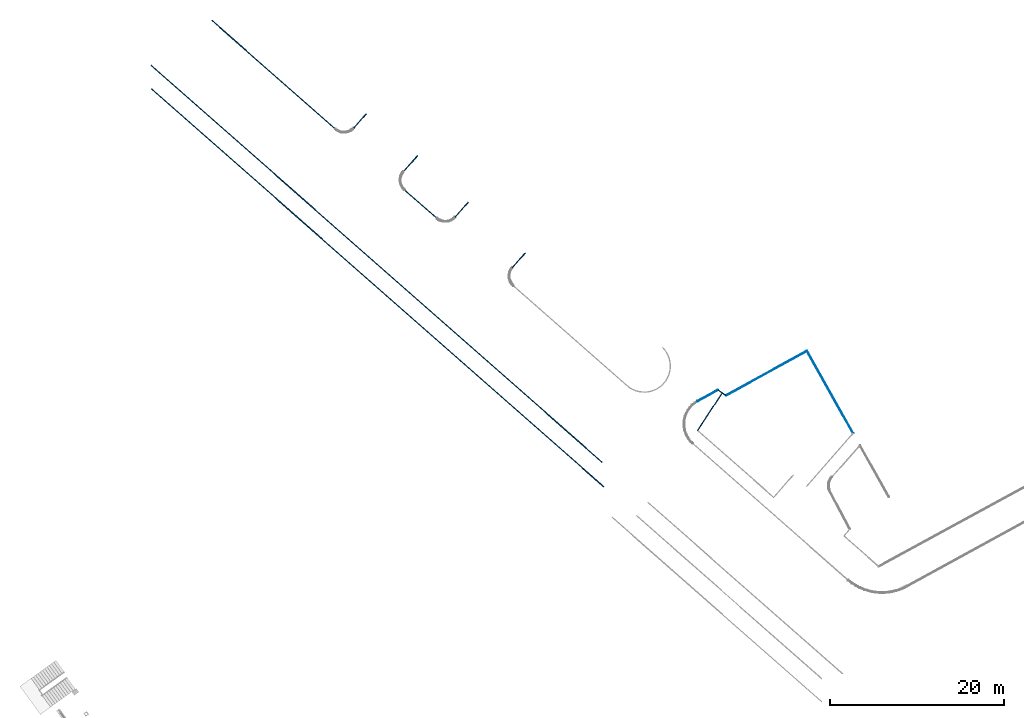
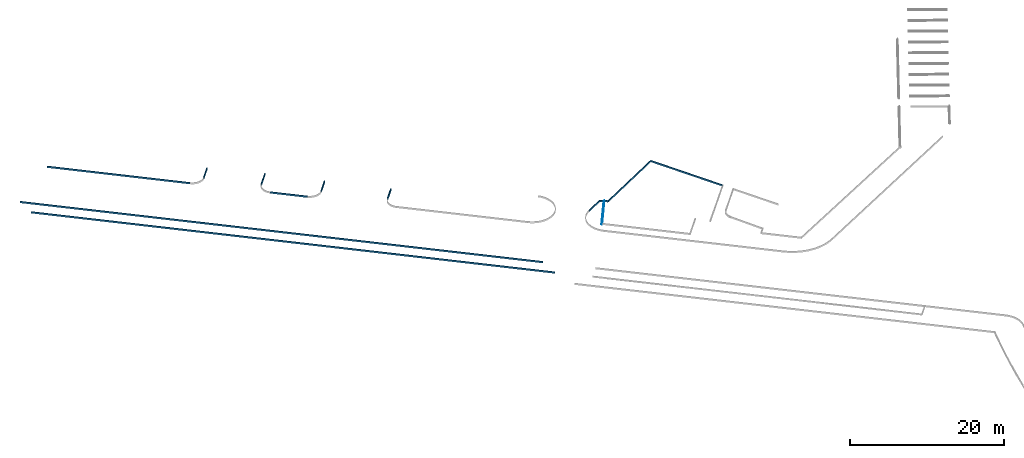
# One storey, part 6 of 24: 13 beams.
"""IFC2X3 building model written with IfcOpenShell, lengths in millimetres."""

from ifc_helpers import new_model, entity, si_unit, converted_unit, derived_unit, direction, frame, frame_2d, origin, place, context, subcontext, project, spatial, rectangle, extrude, material, type_object, element, save


model = new_model("IFC2X3")

# Units and contexts
model_context = context("Model", 3, precision=0.01, world=origin(), true_north=direction((6.123031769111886e-17, 1.0)))
body_context = subcontext(model_context, "Body", "Model", "MODEL_VIEW")
ifc_project = project(units=[si_unit("LENGTHUNIT", "METRE", prefix="MILLI"), si_unit("AREAUNIT", "SQUARE_METRE"), si_unit("VOLUMEUNIT", "CUBIC_METRE"), converted_unit("PLANEANGLEUNIT", "DEGREE", entity("IfcRatioMeasure", 0.017453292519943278), si_unit("PLANEANGLEUNIT", "RADIAN"), dimensions=[0, 0, 0, 0, 0, 0, 0]), si_unit("MASSUNIT", "GRAM", prefix="KILO"), derived_unit("MASSDENSITYUNIT", [(si_unit("MASSUNIT", "GRAM", prefix="KILO"), 1), (si_unit("LENGTHUNIT", "METRE"), -3)]), derived_unit("MOMENTOFINERTIAUNIT", [(si_unit("LENGTHUNIT", "METRE"), 4)]), si_unit("TIMEUNIT", "SECOND"), si_unit("FREQUENCYUNIT", "HERTZ"), si_unit("THERMODYNAMICTEMPERATUREUNIT", "DEGREE_CELSIUS"), derived_unit("THERMALTRANSMITTANCEUNIT", [(si_unit("MASSUNIT", "GRAM", prefix="KILO"), 1), (si_unit("THERMODYNAMICTEMPERATUREUNIT", "KELVIN"), -1), (si_unit("TIMEUNIT", "SECOND"), -3)]), derived_unit("THERMALCONDUCTANCEUNIT", [(si_unit("MASSUNIT", "GRAM", prefix="KILO"), 1), (si_unit("LENGTHUNIT", "METRE"), 1), (si_unit("THERMODYNAMICTEMPERATUREUNIT", "KELVIN"), -1), (si_unit("TIMEUNIT", "SECOND"), -3)]), derived_unit("VOLUMETRICFLOWRATEUNIT", [(si_unit("LENGTHUNIT", "METRE"), 3), (si_unit("TIMEUNIT", "SECOND"), -1)]), derived_unit("MASSFLOWRATEUNIT", [(si_unit("MASSUNIT", "GRAM", prefix="KILO"), 1), (si_unit("TIMEUNIT", "SECOND"), -1)]), derived_unit("ROTATIONALFREQUENCYUNIT", [(si_unit("TIMEUNIT", "SECOND"), -1)]), si_unit("ELECTRICCURRENTUNIT", "AMPERE"), si_unit("ELECTRICVOLTAGEUNIT", "VOLT"), si_unit("POWERUNIT", "WATT"), converted_unit("FORCEUNIT", "KIP", entity("IfcRatioMeasure", 2.088543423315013e-05), si_unit("FORCEUNIT", "NEWTON"), dimensions=[1, 1, -2, 0, 0, 0, 0]), si_unit("ILLUMINANCEUNIT", "LUX"), si_unit("LUMINOUSFLUXUNIT", "LUMEN"), si_unit("LUMINOUSINTENSITYUNIT", "CANDELA"), derived_unit("USERDEFINED", [(si_unit("MASSUNIT", "GRAM", prefix="KILO"), -1), (si_unit("LENGTHUNIT", "METRE"), -2), (si_unit("TIMEUNIT", "SECOND"), 3), (si_unit("LUMINOUSFLUXUNIT", "LUMEN"), 1)]), derived_unit("USERDEFINED", [(si_unit("MASSUNIT", "GRAM", prefix="KILO"), 1), (si_unit("LENGTHUNIT", "METRE"), 3), (si_unit("TIMEUNIT", "SECOND"), -3), (si_unit("ELECTRICCURRENTUNIT", "AMPERE"), -2)]), derived_unit("USERDEFINED", [(si_unit("LENGTHUNIT", "METRE"), 2), (si_unit("TIMEUNIT", "SECOND"), -2)]), derived_unit("SOUNDPOWERUNIT", [(si_unit("MASSUNIT", "GRAM", prefix="KILO"), 1), (si_unit("LENGTHUNIT", "METRE"), 2), (si_unit("TIMEUNIT", "SECOND"), -3)]), derived_unit("SOUNDPRESSUREUNIT", [(si_unit("MASSUNIT", "GRAM", prefix="KILO"), 1), (si_unit("LENGTHUNIT", "METRE"), -1), (si_unit("TIMEUNIT", "SECOND"), -2)]), derived_unit("LINEARVELOCITYUNIT", [(si_unit("LENGTHUNIT", "METRE"), 1), (si_unit("TIMEUNIT", "SECOND"), -1)]), si_unit("PRESSUREUNIT", "PASCAL"), derived_unit("USERDEFINED", [(si_unit("LENGTHUNIT", "METRE"), -2), (si_unit("MASSUNIT", "GRAM", prefix="KILO"), 1), (si_unit("TIMEUNIT", "SECOND"), -2)]), derived_unit("LINEARFORCEUNIT", [(si_unit("MASSUNIT", "GRAM", prefix="KILO"), 1), (si_unit("LENGTHUNIT", "METRE"), 1), (si_unit("TIMEUNIT", "SECOND"), -2), (si_unit("LENGTHUNIT", "METRE"), -1)]), derived_unit("PLANARFORCEUNIT", [(si_unit("MASSUNIT", "GRAM", prefix="KILO"), 1), (si_unit("LENGTHUNIT", "METRE"), 1), (si_unit("TIMEUNIT", "SECOND"), -2), (si_unit("LENGTHUNIT", "METRE"), -2)]), derived_unit("SPECIFICHEATCAPACITYUNIT", [(si_unit("LENGTHUNIT", "METRE"), 2), (si_unit("TIMEUNIT", "SECOND"), -2), (si_unit("THERMODYNAMICTEMPERATUREUNIT", "KELVIN"), -1)]), derived_unit("VAPORPERMEABILITYUNIT", [(si_unit("TIMEUNIT", "SECOND"), 1), (si_unit("LENGTHUNIT", "METRE"), -1)]), derived_unit("DYNAMICVISCOSITYUNIT", [(si_unit("MASSUNIT", "GRAM", prefix="KILO"), 1), (si_unit("LENGTHUNIT", "METRE"), -1), (si_unit("TIMEUNIT", "SECOND"), -1)]), derived_unit("THERMALEXPANSIONCOEFFICIENTUNIT", [(si_unit("THERMODYNAMICTEMPERATUREUNIT", "KELVIN"), -1)])], contexts=[model_context])

# Site, building, storey
site_placement = place(None, frame((0.0, 0.0, 0.0), z_axis=(0.0, 0.0, 1.0), x_axis=(0.8191520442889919, 0.5735764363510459, 0.0)))
site = spatial("IfcSite", under=ifc_project, at=site_placement, Name="Default", CompositionType="ELEMENT")
building_placement = place(site_placement, origin())
building = spatial("IfcBuilding", under=site, at=building_placement, CompositionType="ELEMENT")
storey_placement = place(building_placement, frame((0.0, 0.0, -1150.0)))
storey = spatial("IfcBuildingStorey", under=building, at=storey_placement, Name="6.EG KH -1.15", CompositionType="ELEMENT", Elevation=-1150.0000000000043)

# Beams
ifc_material = material(Name="Paveta_bordur")
beam_type_1 = type_object("IfcBeamType", Name="Beam-141 237933:Beam-141 237933", PredefinedType="NOTDEFINED")
beam_1_placement = place(storey_placement, origin())
element("IfcBeam", 1, at=beam_1_placement, inside=storey, type_object=beam_type_1, material=ifc_material, Name="Beam-141", ObjectType="Beam-141 237933:Beam-141 237933", context=body_context, shape_type="SweptSolid", body=[
    extrude(rectangle(XDim=250.00000000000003, YDim=99.99999999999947, at=frame_2d((8.419931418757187e-12, 0.0), x_axis=(0.0, 1.0))), frame((-121613.98802603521, 180331.0687685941, 1035.0), z_axis=(-0.23611027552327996, 0.9717262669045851, 0.0), x_axis=(0.9717262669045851, 0.23611027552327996, 0.0)), (0.0, 0.0, 1.0), 69104.3336898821),
])
beam_type_2 = type_object("IfcBeamType", Name="Beam-141 237912:Beam-141 237912", PredefinedType="NOTDEFINED")
beam_2_placement = place(storey_placement, origin())
element("IfcBeam", 2, at=beam_2_placement, inside=storey, type_object=beam_type_2, material=ifc_material, Name="Beam-141", ObjectType="Beam-141 237912:Beam-141 237912", context=body_context, shape_type="SweptSolid", body=[
    extrude(rectangle(XDim=250.00000000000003, YDim=99.99999999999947, at=frame_2d((0.0, -8.419931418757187e-12), x_axis=(1.0, 0.0))), frame((-123085.22000879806, 177915.3956837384, 1035.0), z_axis=(-0.23611027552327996, 0.9717262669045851, 0.0), x_axis=(0.0, 0.0, -1.0)), (0.0, 0.0, 1.0), 69271.63995301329),
])
beam_type_3 = type_object("IfcBeamType", Name="Beam-143 237907:Beam-143 237907", PredefinedType="NOTDEFINED")
beam_3_placement = place(storey_placement, origin())
element("IfcBeam", 3, at=beam_3_placement, inside=storey, type_object=beam_type_3, material=ifc_material, Name="Beam-143", ObjectType="Beam-143 237907:Beam-143 237907", context=body_context, shape_type="SweptSolid", body=[
    extrude(rectangle(XDim=250.00000000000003, YDim=99.99999999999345, at=frame_2d((1.8879120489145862e-11, 0.0), x_axis=(0.0, 1.0))), frame((-119289.01861817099, 213115.60441079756, 1035.0), z_axis=(0.9717262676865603, 0.23611027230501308, 0.0), x_axis=(0.23611027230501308, -0.9717262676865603, 0.0)), (0.0, 0.0, 1.0), 2279.0963264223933),
])
beam_type_4 = type_object("IfcBeamType", Name="Beam-141 237901:Beam-141 237901", PredefinedType="NOTDEFINED")
beam_4_placement = place(storey_placement, origin())
element("IfcBeam", 4, at=beam_4_placement, inside=storey, type_object=beam_type_4, material=ifc_material, Name="Beam-141", ObjectType="Beam-141 237901:Beam-141 237901", context=body_context, shape_type="SweptSolid", body=[
    extrude(rectangle(XDim=250.00000000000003, YDim=99.99999999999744, at=frame_2d((0.0, 8.416378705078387e-12), x_axis=(1.0, 0.0))), frame((-124765.69705513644, 229302.2453425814, 1035.0), z_axis=(-0.23611027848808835, 0.9717262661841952, 0.0), x_axis=(0.0, 0.0, -1.0)), (0.0, 0.0, 1.0), 18940.910466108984),
])
beam_type_5 = type_object("IfcBeamType", Name="Beam-145 237897:Beam-145 237897", PredefinedType="NOTDEFINED")
beam_5_placement = place(storey_placement, origin())
element("IfcBeam", 5, at=beam_5_placement, inside=storey, type_object=beam_type_5, material=ifc_material, Name="Beam-145", ObjectType="Beam-145 237897:Beam-145 237897", context=body_context, shape_type="SweptSolid", body=[
    extrude(rectangle(XDim=250.00000000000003, YDim=99.99999999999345, at=frame_2d((1.8879120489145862e-11, 0.0), x_axis=(0.0, 1.0))), frame((-122953.94224740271, 228198.82135878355, 1035.0), z_axis=(0.9717262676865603, 0.23611027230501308, 0.0), x_axis=(0.23611027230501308, -0.9717262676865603, 0.0)), (0.0, 0.0, 1.0), 2166.182043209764),
])
beam_type_6 = type_object("IfcBeamType", Name="Beam-142 237892:Beam-142 237892", PredefinedType="NOTDEFINED")
beam_6_placement = place(storey_placement, origin())
element("IfcBeam", 6, at=beam_6_placement, inside=storey, type_object=beam_type_6, material=ifc_material, Name="Beam-142", ObjectType="Beam-142 237892:Beam-142 237892", context=body_context, shape_type="SweptSolid", body=[
    extrude(rectangle(XDim=250.00000000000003, YDim=99.99999999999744, at=frame_2d((0.0, -8.416378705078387e-12), x_axis=(1.0, 0.0))), frame((-121100.77342590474, 214219.0283945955, 1035.0), z_axis=(-0.23611027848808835, 0.9717262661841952, 0.0), x_axis=(0.0, 0.0, -1.0)), (0.0, 0.0, 1.0), 4913.330426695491),
])
beam_type_7 = type_object("IfcBeamType", Name="Beam-144 237878:Beam-144 237878", PredefinedType="NOTDEFINED")
beam_7_placement = place(storey_placement, origin())
element("IfcBeam", 7, at=beam_7_placement, inside=storey, type_object=beam_type_7, material=ifc_material, Name="Beam-144", ObjectType="Beam-144 237878:Beam-144 237878", context=body_context, shape_type="SweptSolid", body=[
    extrude(rectangle(XDim=250.00000000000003, YDim=99.99999999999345, at=frame_2d((0.0, -1.8879120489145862e-11), x_axis=(1.0, 0.0))), frame((-117217.86958622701, 204591.6642023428, 1035.0), z_axis=(0.9717262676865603, 0.23611027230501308, 0.0), x_axis=(0.0, 0.0, -1.0)), (0.0, 0.0, 1.0), 2251.6739555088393),
])
beam_type_8 = type_object("IfcBeamType", Name="Beam-143 237866:Beam-143 237866", PredefinedType="NOTDEFINED")
beam_8_placement = place(storey_placement, origin())
element("IfcBeam", 8, at=beam_8_placement, inside=storey, type_object=beam_type_8, material=ifc_material, Name="Beam-143", ObjectType="Beam-143 237866:Beam-143 237866", context=body_context, shape_type="SweptSolid", body=[
    extrude(rectangle(XDim=250.00000000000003, YDim=99.99999999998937, at=frame_2d((0.0, -1.6836310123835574e-11), x_axis=(1.0, 0.0))), frame((-121157.4372504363, 220805.1954439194, 1035.0), z_axis=(0.9717262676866, 0.23611027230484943, 0.0), x_axis=(0.0, 0.0, -1.0)), (0.0, 0.0, 1.0), 2435.8894343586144),
])
beam_type_9 = type_object("IfcBeamType", Name="Beam-144 237850:Beam-144 237850", PredefinedType="NOTDEFINED")
beam_9_placement = place(storey_placement, origin())
element("IfcBeam", 9, at=beam_9_placement, inside=storey, type_object=beam_type_9, material=ifc_material, Name="Beam-144", ObjectType="Beam-144 237850:Beam-144 237850", context=body_context, shape_type="SweptSolid", body=[
    extrude(rectangle(XDim=250.00000000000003, YDim=100.00000000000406, at=frame_2d((3.2009950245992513e-12, 0.0), x_axis=(0.0, 1.0))), frame((-110522.82562071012, 177037.8019742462, 1035.0), z_axis=(0.9290064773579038, 0.3700634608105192, 0.0), x_axis=(0.3700634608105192, -0.9290064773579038, 0.0)), (0.0, 0.0, 1.0), 5153.705315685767),
])
beam_type_10 = type_object("IfcBeamType", Name="Beam-146 237835:Beam-146 237835", PredefinedType="NOTDEFINED")
beam_10_placement = place(storey_placement, origin())
element("IfcBeam", 10, at=beam_10_placement, inside=storey, type_object=beam_type_10, material=ifc_material, Name="Beam-146", ObjectType="Beam-146 237835:Beam-146 237835", context=body_context, shape_type="SweptSolid", body=[
    extrude(rectangle(XDim=250.00000000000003, YDim=99.9999999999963, at=frame_2d((0.0, 8.622436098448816e-12), x_axis=(1.0, 0.0))), frame((-96054.09764881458, 166507.67821365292, 1035.0), z_axis=(0.09951769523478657, 0.9950357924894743, 0.0), x_axis=(0.0, 0.0, -1.0)), (0.0, 0.0, 1.0), 10841.181672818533),
])
beam_type_11 = type_object("IfcBeamType", Name="Beam-139 237552:Beam-139 237552", PredefinedType="NOTDEFINED")
beam_11_placement = place(storey_placement, origin())
element("IfcBeam", 11, at=beam_11_placement, inside=storey, type_object=beam_type_11, material=ifc_material, Name="Beam-139", ObjectType="Beam-139 237552:Beam-139 237552", context=body_context, shape_type="SweptSolid", body=[
    extrude(rectangle(XDim=250.00000000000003, YDim=100.00000000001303, at=frame_2d((0.0, 0.0), x_axis=(0.0, 1.0))), frame((-105564.9553168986, 178451.5190230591, 1035.0), z_axis=(0.994089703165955, -0.10856178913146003, 0.0), x_axis=(-0.10856178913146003, -0.994089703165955, 0.0)), (0.0, 0.0, 1.0), 10652.70774665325),
])
beam_type_12 = type_object("IfcBeamType", Name="Beam-140 237494:Beam-140 237494", PredefinedType="NOTDEFINED")
beam_12_placement = place(storey_placement, origin())
element("IfcBeam", 12, at=beam_12_placement, inside=storey, type_object=beam_type_12, material=ifc_material, Name="Beam-140", ObjectType="Beam-140 237494:Beam-140 237494", context=body_context, shape_type="SweptSolid", body=[
    extrude(rectangle(XDim=250.00000000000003, YDim=99.99999999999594, at=frame_2d((0.0, -8.189005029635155e-12), x_axis=(1.0, 0.0))), frame((-105564.95531689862, 178451.51902305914, 1035.0), z_axis=(-0.32578319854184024, 0.945444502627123, 0.0), x_axis=(0.0, 0.0, -1.0)), (0.0, 0.0, 1.0), 1105.5965942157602),
])
beam_type_13 = type_object("IfcBeamType", Name="Beam-139 237483:Beam-139 237483", PredefinedType="NOTDEFINED")
beam_13_placement = place(storey_placement, origin())
element("IfcBeam", 13, at=beam_13_placement, inside=storey, type_object=beam_type_13, material=ifc_material, Name="Beam-139", ObjectType="Beam-139 237483:Beam-139 237483", context=body_context, shape_type="SweptSolid", body=[
    extrude(rectangle(XDim=250.00000000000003, YDim=100.00000000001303, at=frame_2d((0.0, 0.0), x_axis=(0.0, 1.0))), frame((-108597.2560734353, 179788.6136444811, 1035.0), z_axis=(0.994089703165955, -0.10856178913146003, 0.0), x_axis=(-0.10856178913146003, -0.994089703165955, 0.0)), (0.0, 0.0, 1.0), 2688.002856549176),
])

save(model, "model.ifc")
